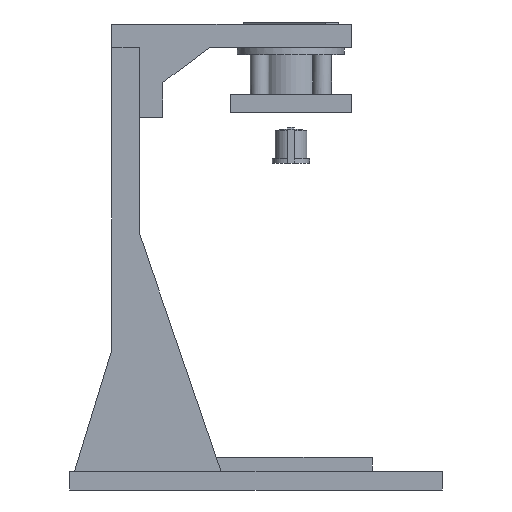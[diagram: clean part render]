
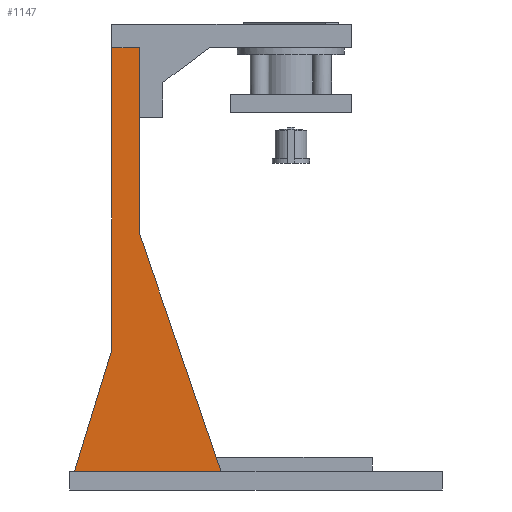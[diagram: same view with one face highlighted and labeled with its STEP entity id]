
A CAD part, left-side view. The second image highlights one B-rep face of the part: STEP entity #1147.
In plain terms, the highlighted planar face has unit normal (-1, 0, 0).
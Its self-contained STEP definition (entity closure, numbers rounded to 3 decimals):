
#204 = PLANE('',#205);
#205 = AXIS2_PLACEMENT_3D('',#206,#207,#208);
#206 = CARTESIAN_POINT('',(0.,0.,8.));
#207 = DIRECTION('',(0.,0.,1.));
#208 = DIRECTION('',(1.,0.,0.));
#458 = VERTEX_POINT('',#459);
#459 = CARTESIAN_POINT('',(45.,95.,8.));
#475 = PLANE('',#476);
#476 = AXIS2_PLACEMENT_3D('',#477,#478,#479);
#477 = CARTESIAN_POINT('',(45.,130.,110.));
#478 = DIRECTION('',(0.,0.946,-0.325));
#479 = DIRECTION('',(0.,-0.325,-0.946));
#487 = EDGE_CURVE('',#458,#488,#490,.T.);
#488 = VERTEX_POINT('',#489);
#489 = CARTESIAN_POINT('',(45.,158.,8.));
#490 = SURFACE_CURVE('',#491,(#495,#502),.PCURVE_S1.);
#491 = LINE('',#492,#493);
#492 = CARTESIAN_POINT('',(45.,95.,8.));
#493 = VECTOR('',#494,1.);
#494 = DIRECTION('',(0.,1.,0.));
#495 = PCURVE('',#204,#496);
#496 = DEFINITIONAL_REPRESENTATION('',(#497),#501);
#497 = LINE('',#498,#499);
#498 = CARTESIAN_POINT('',(45.,95.));
#499 = VECTOR('',#500,1.);
#500 = DIRECTION('',(0.,1.));
#501 = ( GEOMETRIC_REPRESENTATION_CONTEXT(2) 
PARAMETRIC_REPRESENTATION_CONTEXT() REPRESENTATION_CONTEXT('2D SPACE',''
  ) );
#502 = PCURVE('',#503,#508);
#503 = PLANE('',#504);
#504 = AXIS2_PLACEMENT_3D('',#505,#506,#507);
#505 = CARTESIAN_POINT('',(45.,146.601,30.601));
#506 = DIRECTION('',(1.,0.,0.));
#507 = DIRECTION('',(-0.,0.,1.));
#508 = DEFINITIONAL_REPRESENTATION('',(#509),#513);
#509 = LINE('',#510,#511);
#510 = CARTESIAN_POINT('',(-22.601,51.601));
#511 = VECTOR('',#512,1.);
#512 = DIRECTION('',(0.,-1.));
#513 = ( GEOMETRIC_REPRESENTATION_CONTEXT(2) 
PARAMETRIC_REPRESENTATION_CONTEXT() REPRESENTATION_CONTEXT('2D SPACE',''
  ) );
#531 = PLANE('',#532);
#532 = AXIS2_PLACEMENT_3D('',#533,#534,#535);
#533 = CARTESIAN_POINT('',(45.,158.,8.));
#534 = DIRECTION('',(0.,-0.956,-0.294));
#535 = DIRECTION('',(0.,-0.294,0.956));
#587 = PLANE('',#588);
#588 = AXIS2_PLACEMENT_3D('',#589,#590,#591);
#589 = CARTESIAN_POINT('',(45.,142.,8.));
#590 = DIRECTION('',(0.,1.,0.));
#591 = DIRECTION('',(0.,0.,1.));
#755 = PLANE('',#756);
#756 = AXIS2_PLACEMENT_3D('',#757,#758,#759);
#757 = CARTESIAN_POINT('',(45.,130.,8.));
#758 = DIRECTION('',(0.,1.,0.));
#759 = DIRECTION('',(0.,0.,1.));
#1081 = VERTEX_POINT('',#1082);
#1082 = CARTESIAN_POINT('',(45.,130.,110.));
#1127 = EDGE_CURVE('',#1081,#458,#1128,.T.);
#1128 = SURFACE_CURVE('',#1129,(#1133,#1140),.PCURVE_S1.);
#1129 = LINE('',#1130,#1131);
#1130 = CARTESIAN_POINT('',(45.,130.,110.));
#1131 = VECTOR('',#1132,1.);
#1132 = DIRECTION('',(0.,-0.325,-0.946));
#1133 = PCURVE('',#475,#1134);
#1134 = DEFINITIONAL_REPRESENTATION('',(#1135),#1139);
#1135 = LINE('',#1136,#1137);
#1136 = CARTESIAN_POINT('',(0.,0.));
#1137 = VECTOR('',#1138,1.);
#1138 = DIRECTION('',(1.,0.));
#1139 = ( GEOMETRIC_REPRESENTATION_CONTEXT(2) 
PARAMETRIC_REPRESENTATION_CONTEXT() REPRESENTATION_CONTEXT('2D SPACE',''
  ) );
#1140 = PCURVE('',#503,#1141);
#1141 = DEFINITIONAL_REPRESENTATION('',(#1142),#1146);
#1142 = LINE('',#1143,#1144);
#1143 = CARTESIAN_POINT('',(79.399,16.601));
#1144 = VECTOR('',#1145,1.);
#1145 = DIRECTION('',(-0.946,0.325));
#1146 = ( GEOMETRIC_REPRESENTATION_CONTEXT(2) 
PARAMETRIC_REPRESENTATION_CONTEXT() REPRESENTATION_CONTEXT('2D SPACE',''
  ) );
#1147 = ADVANCED_FACE('',(#1148),#503,.F.);
#1148 = FACE_BOUND('',#1149,.F.);
#1149 = EDGE_LOOP('',(#1150,#1173,#1196,#1224,#1245,#1246));
#1150 = ORIENTED_EDGE('',*,*,#1151,.T.);
#1151 = EDGE_CURVE('',#488,#1152,#1154,.T.);
#1152 = VERTEX_POINT('',#1153);
#1153 = CARTESIAN_POINT('',(45.,142.,60.));
#1154 = SURFACE_CURVE('',#1155,(#1159,#1166),.PCURVE_S1.);
#1155 = LINE('',#1156,#1157);
#1156 = CARTESIAN_POINT('',(45.,158.,8.));
#1157 = VECTOR('',#1158,1.);
#1158 = DIRECTION('',(0.,-0.294,0.956));
#1159 = PCURVE('',#503,#1160);
#1160 = DEFINITIONAL_REPRESENTATION('',(#1161),#1165);
#1161 = LINE('',#1162,#1163);
#1162 = CARTESIAN_POINT('',(-22.601,-11.399));
#1163 = VECTOR('',#1164,1.);
#1164 = DIRECTION('',(0.956,0.294));
#1165 = ( GEOMETRIC_REPRESENTATION_CONTEXT(2) 
PARAMETRIC_REPRESENTATION_CONTEXT() REPRESENTATION_CONTEXT('2D SPACE',''
  ) );
#1166 = PCURVE('',#531,#1167);
#1167 = DEFINITIONAL_REPRESENTATION('',(#1168),#1172);
#1168 = LINE('',#1169,#1170);
#1169 = CARTESIAN_POINT('',(0.,0.));
#1170 = VECTOR('',#1171,1.);
#1171 = DIRECTION('',(1.,0.));
#1172 = ( GEOMETRIC_REPRESENTATION_CONTEXT(2) 
PARAMETRIC_REPRESENTATION_CONTEXT() REPRESENTATION_CONTEXT('2D SPACE',''
  ) );
#1173 = ORIENTED_EDGE('',*,*,#1174,.T.);
#1174 = EDGE_CURVE('',#1152,#1175,#1177,.T.);
#1175 = VERTEX_POINT('',#1176);
#1176 = CARTESIAN_POINT('',(45.,142.,190.));
#1177 = SURFACE_CURVE('',#1178,(#1182,#1189),.PCURVE_S1.);
#1178 = LINE('',#1179,#1180);
#1179 = CARTESIAN_POINT('',(45.,142.,8.));
#1180 = VECTOR('',#1181,1.);
#1181 = DIRECTION('',(0.,0.,1.));
#1182 = PCURVE('',#503,#1183);
#1183 = DEFINITIONAL_REPRESENTATION('',(#1184),#1188);
#1184 = LINE('',#1185,#1186);
#1185 = CARTESIAN_POINT('',(-22.601,4.601));
#1186 = VECTOR('',#1187,1.);
#1187 = DIRECTION('',(1.,0.));
#1188 = ( GEOMETRIC_REPRESENTATION_CONTEXT(2) 
PARAMETRIC_REPRESENTATION_CONTEXT() REPRESENTATION_CONTEXT('2D SPACE',''
  ) );
#1189 = PCURVE('',#587,#1190);
#1190 = DEFINITIONAL_REPRESENTATION('',(#1191),#1195);
#1191 = LINE('',#1192,#1193);
#1192 = CARTESIAN_POINT('',(0.,0.));
#1193 = VECTOR('',#1194,1.);
#1194 = DIRECTION('',(1.,0.));
#1195 = ( GEOMETRIC_REPRESENTATION_CONTEXT(2) 
PARAMETRIC_REPRESENTATION_CONTEXT() REPRESENTATION_CONTEXT('2D SPACE',''
  ) );
#1196 = ORIENTED_EDGE('',*,*,#1197,.F.);
#1197 = EDGE_CURVE('',#1198,#1175,#1200,.T.);
#1198 = VERTEX_POINT('',#1199);
#1199 = CARTESIAN_POINT('',(45.,130.,190.));
#1200 = SURFACE_CURVE('',#1201,(#1205,#1212),.PCURVE_S1.);
#1201 = LINE('',#1202,#1203);
#1202 = CARTESIAN_POINT('',(45.,130.,190.));
#1203 = VECTOR('',#1204,1.);
#1204 = DIRECTION('',(0.,1.,0.));
#1205 = PCURVE('',#503,#1206);
#1206 = DEFINITIONAL_REPRESENTATION('',(#1207),#1211);
#1207 = LINE('',#1208,#1209);
#1208 = CARTESIAN_POINT('',(159.399,16.601));
#1209 = VECTOR('',#1210,1.);
#1210 = DIRECTION('',(0.,-1.));
#1211 = ( GEOMETRIC_REPRESENTATION_CONTEXT(2) 
PARAMETRIC_REPRESENTATION_CONTEXT() REPRESENTATION_CONTEXT('2D SPACE',''
  ) );
#1212 = PCURVE('',#1213,#1218);
#1213 = PLANE('',#1214);
#1214 = AXIS2_PLACEMENT_3D('',#1215,#1216,#1217);
#1215 = CARTESIAN_POINT('',(45.,130.,190.));
#1216 = DIRECTION('',(0.,0.,1.));
#1217 = DIRECTION('',(1.,0.,0.));
#1218 = DEFINITIONAL_REPRESENTATION('',(#1219),#1223);
#1219 = LINE('',#1220,#1221);
#1220 = CARTESIAN_POINT('',(0.,0.));
#1221 = VECTOR('',#1222,1.);
#1222 = DIRECTION('',(0.,1.));
#1223 = ( GEOMETRIC_REPRESENTATION_CONTEXT(2) 
PARAMETRIC_REPRESENTATION_CONTEXT() REPRESENTATION_CONTEXT('2D SPACE',''
  ) );
#1224 = ORIENTED_EDGE('',*,*,#1225,.F.);
#1225 = EDGE_CURVE('',#1081,#1198,#1226,.T.);
#1226 = SURFACE_CURVE('',#1227,(#1231,#1238),.PCURVE_S1.);
#1227 = LINE('',#1228,#1229);
#1228 = CARTESIAN_POINT('',(45.,130.,8.));
#1229 = VECTOR('',#1230,1.);
#1230 = DIRECTION('',(0.,0.,1.));
#1231 = PCURVE('',#503,#1232);
#1232 = DEFINITIONAL_REPRESENTATION('',(#1233),#1237);
#1233 = LINE('',#1234,#1235);
#1234 = CARTESIAN_POINT('',(-22.601,16.601));
#1235 = VECTOR('',#1236,1.);
#1236 = DIRECTION('',(1.,0.));
#1237 = ( GEOMETRIC_REPRESENTATION_CONTEXT(2) 
PARAMETRIC_REPRESENTATION_CONTEXT() REPRESENTATION_CONTEXT('2D SPACE',''
  ) );
#1238 = PCURVE('',#755,#1239);
#1239 = DEFINITIONAL_REPRESENTATION('',(#1240),#1244);
#1240 = LINE('',#1241,#1242);
#1241 = CARTESIAN_POINT('',(0.,0.));
#1242 = VECTOR('',#1243,1.);
#1243 = DIRECTION('',(1.,0.));
#1244 = ( GEOMETRIC_REPRESENTATION_CONTEXT(2) 
PARAMETRIC_REPRESENTATION_CONTEXT() REPRESENTATION_CONTEXT('2D SPACE',''
  ) );
#1245 = ORIENTED_EDGE('',*,*,#1127,.T.);
#1246 = ORIENTED_EDGE('',*,*,#487,.T.);
